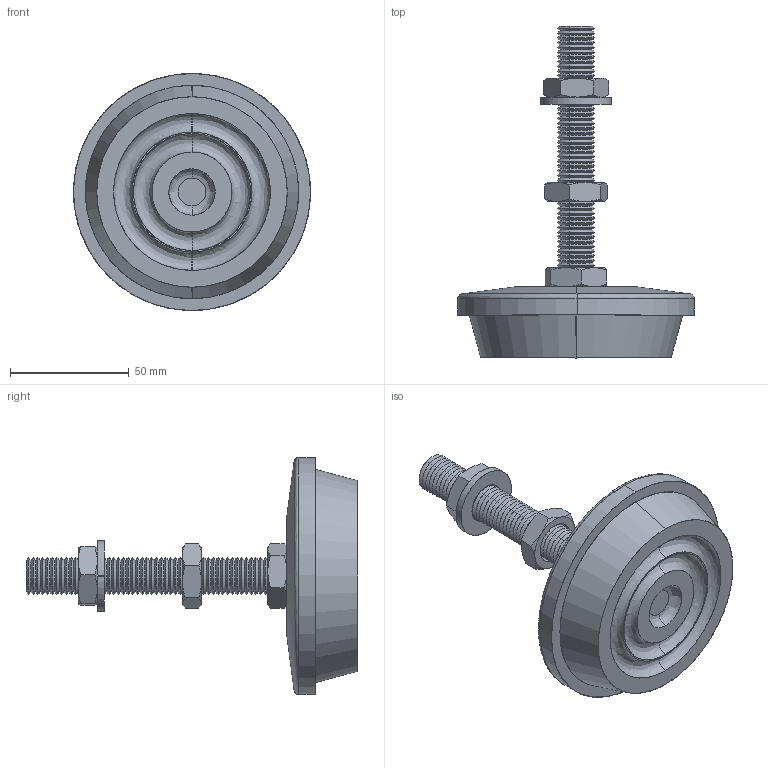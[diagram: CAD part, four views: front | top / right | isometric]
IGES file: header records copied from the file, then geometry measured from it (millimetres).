
Start section: SolidWorks IGES file using analytic representation for surfaces
Global section: file name: C:\Documents and Settings\IANO\Desktop\Temp File\Process pending\EXISTING\34930_v2\34930_v2_20170626_IGES\34930.W0100.igs; native system: SolidWorks 2009; preprocessor: SolidWorks 2009; author: IANO; date: 170626.131436; units: millimetre
Bounding box: 100 x 140 x 100 mm (x, y, z)
Surface area: 52477.7 mm2 (no closed solid volume)
Topology: 0 solids, 0 shells, 352 faces, 3272 edges, 3272 vertices
Faces by surface type: revolution 308, bspline 44
